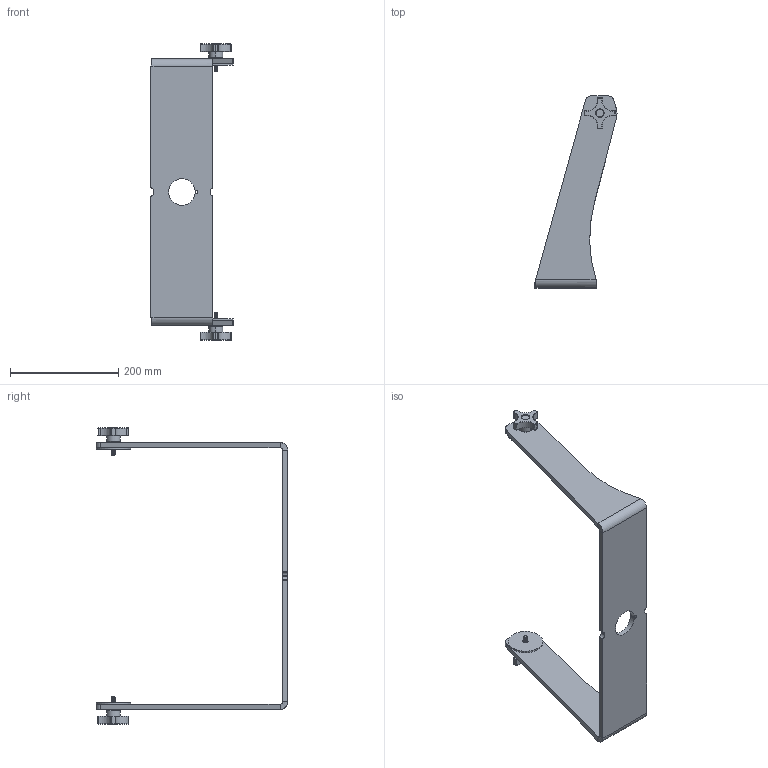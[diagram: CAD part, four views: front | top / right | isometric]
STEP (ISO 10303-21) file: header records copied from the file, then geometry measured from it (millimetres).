
FILE_DESCRIPTION (( 'STEP AP214' ), '1' );
FILE_NAME ('Yoke for 19 inch Universal Mount Monitor, YK19.STEP', '2017-07-18T14:03:54', ( '' ), ( '' ), 'SwSTEP 2.0', 'SolidWorks 2017', '' );
FILE_SCHEMA (( 'AUTOMOTIVE_DESIGN' ));
Length unit declared in the file: inch
Products named in the file (5): Knob, 30053; Rubber Washer, 10177; Bushing, 30500; All Yoke Configurations, YKxx_YK19; Yoke for 19 inch Universal Mount Monitor, YK19
Assembly tree (7 placements, depth 2):
  Yoke for 19 inch Universal Mount Monitor, YK19
    All Yoke Configurations, YKxx_YK19
    Bushing, 30500  x2
    Rubber Washer, 10177  x2
    Knob, 30053  x2
Bounding box: 151.52 x 353.72 x 546.76 mm (x, y, z)
Volume: 1057510.6 mm3; surface area: 262518.7 mm2
Topology: 7 solids, 7 shells, 567 faces, 1225 edges, 664 vertices
Faces by surface type: cylinder 257, cone 176, torus 48, plane 42, sphere 40, bspline 4
Entity records: 11008 total; most frequent: CARTESIAN_POINT 4122, DIRECTION 1480, ORIENTED_EDGE 1334, EDGE_CURVE 667, AXIS2_PLACEMENT_3D 601, VERTEX_POINT 369, EDGE_LOOP 324, FACE_OUTER_BOUND 310
